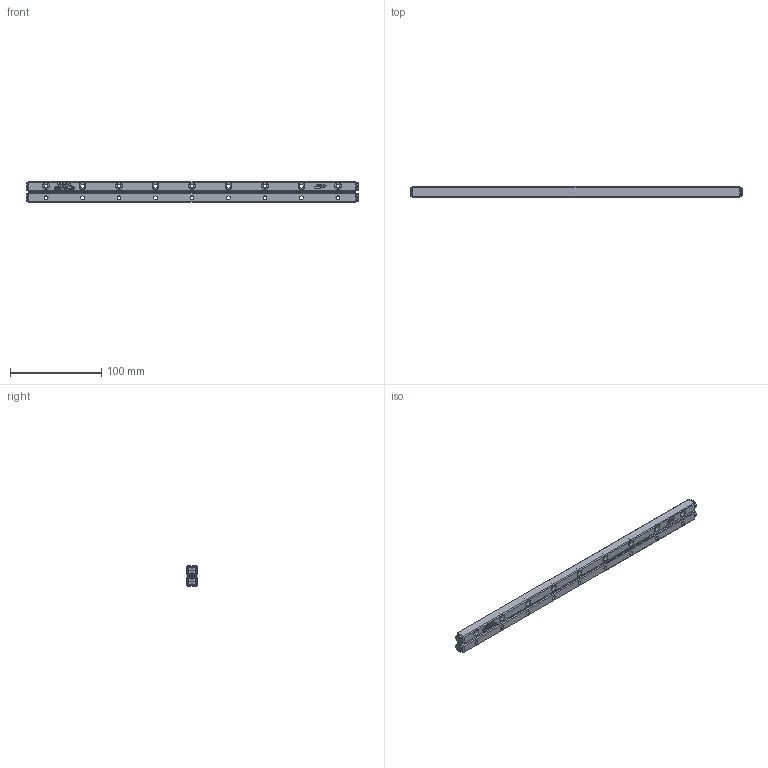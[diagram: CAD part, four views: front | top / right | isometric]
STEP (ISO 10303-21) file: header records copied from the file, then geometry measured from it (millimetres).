
FILE_DESCRIPTION (( 'STEP AP203' ), '1' );
FILE_NAME ('GRV04-360.STEP', '2024-03-28T01:21:35', ( '' ), ( '' ), 'SwSTEP 2.0', 'SolidWorks 2019', '' );
FILE_SCHEMA (( 'CONFIG_CONTROL_DESIGN' ));
Length unit declared in the file: millimetre
Products named in the file (3): GRV04-360-模糊化軌道_GMT; GRV04-360-模糊化保持器組_GMT; GRV04-360
Assembly tree (3 placements, depth 2):
  GRV04-360
    GRV04-360-模糊化軌道_GMT  x2
    GRV04-360-模糊化保持器組_GMT
Bounding box: 364 x 11 x 22 mm (x, y, z)
Volume: 72552.2 mm3; surface area: 39915.8 mm2
Topology: 3 solids, 3 shells, 1667 faces, 4283 edges, 2765 vertices
Faces by surface type: plane 865, cylinder 469, torus 157, bspline 132, cone 44
Entity records: 42539 total; most frequent: CARTESIAN_POINT 13326, ORIENTED_EDGE 6538, DIRECTION 5460, EDGE_CURVE 3269, VERTEX_POINT 2121, AXIS2_PLACEMENT_3D 1924, VECTOR 1612, LINE 1612
